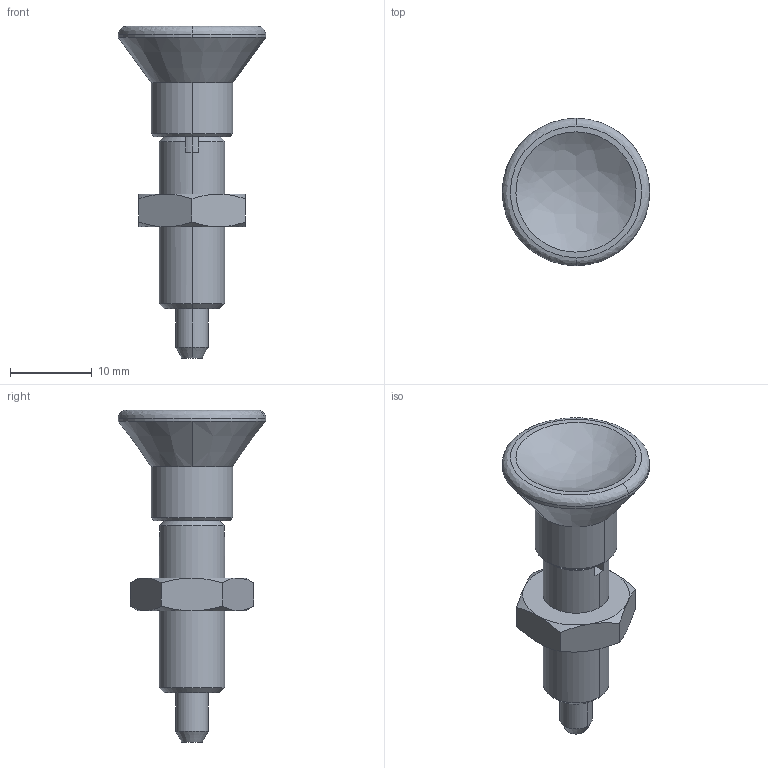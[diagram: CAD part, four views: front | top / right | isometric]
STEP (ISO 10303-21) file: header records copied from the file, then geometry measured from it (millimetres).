
FILE_DESCRIPTION (( 'STEP AP203' ), '1' );
FILE_NAME ('sdxne8aw-sus.STEP', '2021-10-25T04:44:51', ( '' ), ( '' ), 'SwSTEP 2.0', 'SolidWorks 2020', '' );
FILE_SCHEMA (( 'CONFIG_CONTROL_DESIGN' ));
Length unit declared in the file: millimetre
Products named in the file (3): sdxne8aw-sus; sdxne8aw-sus_02; sdxne8aw-sus_01
Assembly tree (2 placements, depth 2):
  sdxne8aw-sus
    sdxne8aw-sus_01
    sdxne8aw-sus_02
Bounding box: 18 x 18 x 40.5 mm (x, y, z)
Volume: 2996.2 mm3; surface area: 1994.5 mm2
Topology: 2 solids, 2 shells, 56 faces, 129 edges, 80 vertices
Faces by surface type: cone 22, plane 18, cylinder 13, bspline 3
Entity records: 2101 total; most frequent: CARTESIAN_POINT 555, DIRECTION 269, ORIENTED_EDGE 258, EDGE_CURVE 129, AXIS2_PLACEMENT_3D 114, VERTEX_POINT 80, EDGE_LOOP 61, CIRCLE 56
